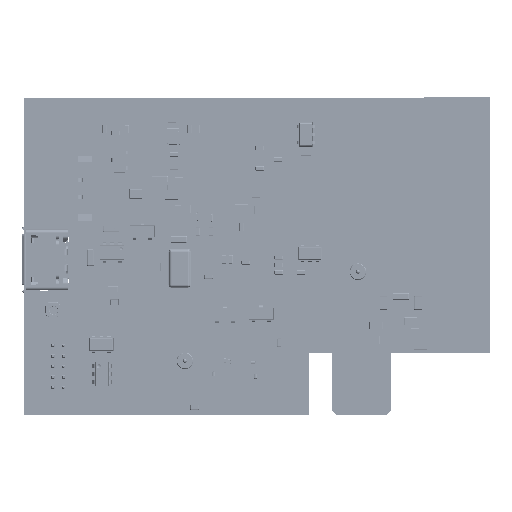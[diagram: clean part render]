
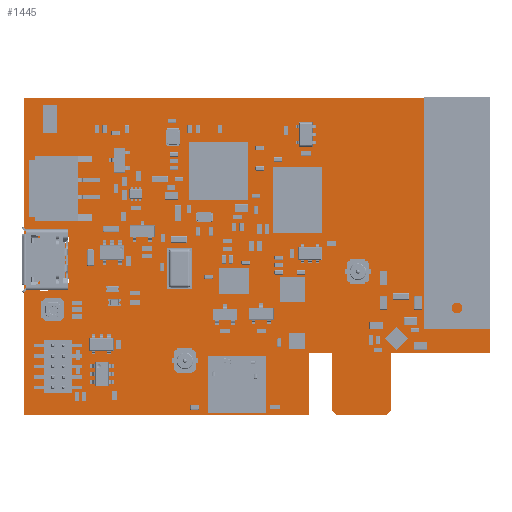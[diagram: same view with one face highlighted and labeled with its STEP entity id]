
A CAD part, top view. The second image highlights one B-rep face of the part: STEP entity #1445.
In plain terms, the highlighted planar face has unit normal (0, 0, 1).
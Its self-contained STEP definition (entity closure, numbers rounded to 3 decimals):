
#524 = VERTEX_POINT('',#525);
#525 = CARTESIAN_POINT('',(-1.5,0.,1.663));
#531 = EDGE_CURVE('',#524,#532,#534,.T.);
#532 = VERTEX_POINT('',#533);
#533 = CARTESIAN_POINT('',(-1.5,38.4,1.663));
#534 = LINE('',#535,#536);
#535 = CARTESIAN_POINT('',(-1.5,0.,1.663));
#536 = VECTOR('',#537,1.);
#537 = DIRECTION('',(0.,1.,0.));
#562 = EDGE_CURVE('',#532,#563,#565,.T.);
#563 = VERTEX_POINT('',#564);
#564 = CARTESIAN_POINT('',(55.,38.4,1.663));
#565 = LINE('',#566,#567);
#566 = CARTESIAN_POINT('',(-1.5,38.4,1.663));
#567 = VECTOR('',#568,1.);
#568 = DIRECTION('',(1.,0.,0.));
#593 = EDGE_CURVE('',#563,#594,#596,.T.);
#594 = VERTEX_POINT('',#595);
#595 = CARTESIAN_POINT('',(55.,7.4,1.663));
#596 = LINE('',#597,#598);
#597 = CARTESIAN_POINT('',(55.,38.4,1.663));
#598 = VECTOR('',#599,1.);
#599 = DIRECTION('',(0.,-1.,0.));
#624 = EDGE_CURVE('',#594,#625,#627,.T.);
#625 = VERTEX_POINT('',#626);
#626 = CARTESIAN_POINT('',(43.,7.4,1.663));
#627 = LINE('',#628,#629);
#628 = CARTESIAN_POINT('',(55.,7.4,1.663));
#629 = VECTOR('',#630,1.);
#630 = DIRECTION('',(-1.,0.,0.));
#655 = EDGE_CURVE('',#625,#656,#658,.T.);
#656 = VERTEX_POINT('',#657);
#657 = CARTESIAN_POINT('',(43.,0.5,1.663));
#658 = LINE('',#659,#660);
#659 = CARTESIAN_POINT('',(43.,7.4,1.663));
#660 = VECTOR('',#661,1.);
#661 = DIRECTION('',(0.,-1.,0.));
#686 = EDGE_CURVE('',#656,#687,#689,.T.);
#687 = VERTEX_POINT('',#688);
#688 = CARTESIAN_POINT('',(42.5,0.,1.663));
#689 = LINE('',#690,#691);
#690 = CARTESIAN_POINT('',(43.,0.5,1.663));
#691 = VECTOR('',#692,1.);
#692 = DIRECTION('',(-0.707,-0.707,0.));
#717 = EDGE_CURVE('',#687,#718,#720,.T.);
#718 = VERTEX_POINT('',#719);
#719 = CARTESIAN_POINT('',(36.4,0.,1.663));
#720 = LINE('',#721,#722);
#721 = CARTESIAN_POINT('',(42.5,0.,1.663));
#722 = VECTOR('',#723,1.);
#723 = DIRECTION('',(-1.,0.,0.));
#748 = EDGE_CURVE('',#718,#749,#751,.T.);
#749 = VERTEX_POINT('',#750);
#750 = CARTESIAN_POINT('',(35.9,0.5,1.663));
#751 = LINE('',#752,#753);
#752 = CARTESIAN_POINT('',(36.4,0.,1.663));
#753 = VECTOR('',#754,1.);
#754 = DIRECTION('',(-0.707,0.707,0.));
#779 = EDGE_CURVE('',#749,#780,#782,.T.);
#780 = VERTEX_POINT('',#781);
#781 = CARTESIAN_POINT('',(35.9,7.4,1.663));
#782 = LINE('',#783,#784);
#783 = CARTESIAN_POINT('',(35.9,0.5,1.663));
#784 = VECTOR('',#785,1.);
#785 = DIRECTION('',(0.,1.,0.));
#810 = EDGE_CURVE('',#780,#811,#813,.T.);
#811 = VERTEX_POINT('',#812);
#812 = CARTESIAN_POINT('',(33.1,7.4,1.663));
#813 = LINE('',#814,#815);
#814 = CARTESIAN_POINT('',(35.9,7.4,1.663));
#815 = VECTOR('',#816,1.);
#816 = DIRECTION('',(-1.,0.,0.));
#841 = EDGE_CURVE('',#811,#842,#844,.T.);
#842 = VERTEX_POINT('',#843);
#843 = CARTESIAN_POINT('',(33.1,0.,1.663));
#844 = LINE('',#845,#846);
#845 = CARTESIAN_POINT('',(33.1,7.4,1.663));
#846 = VECTOR('',#847,1.);
#847 = DIRECTION('',(0.,-1.,0.));
#872 = EDGE_CURVE('',#842,#524,#873,.T.);
#873 = LINE('',#874,#875);
#874 = CARTESIAN_POINT('',(33.1,0.,1.663));
#875 = VECTOR('',#876,1.);
#876 = DIRECTION('',(-1.,0.,0.));
#896 = VERTEX_POINT('',#897);
#897 = CARTESIAN_POINT('',(0.675,15.45,1.663));
#903 = EDGE_CURVE('',#896,#904,#906,.T.);
#904 = VERTEX_POINT('',#905);
#905 = CARTESIAN_POINT('',(0.675,14.95,1.663));
#906 = CIRCLE('',#907,0.25);
#907 = AXIS2_PLACEMENT_3D('',#908,#909,#910);
#908 = CARTESIAN_POINT('',(0.675,15.2,1.663));
#909 = DIRECTION('',(0.,0.,1.));
#910 = DIRECTION('',(0.,1.,0.));
#938 = VERTEX_POINT('',#939);
#939 = CARTESIAN_POINT('',(1.325,15.45,1.663));
#945 = EDGE_CURVE('',#938,#896,#946,.T.);
#946 = LINE('',#947,#948);
#947 = CARTESIAN_POINT('',(1.325,15.45,1.663));
#948 = VECTOR('',#949,1.);
#949 = DIRECTION('',(-1.,0.,0.));
#969 = VERTEX_POINT('',#970);
#970 = CARTESIAN_POINT('',(1.325,14.95,1.663));
#976 = EDGE_CURVE('',#969,#938,#977,.T.);
#977 = CIRCLE('',#978,0.25);
#978 = AXIS2_PLACEMENT_3D('',#979,#980,#981);
#979 = CARTESIAN_POINT('',(1.325,15.2,1.663));
#980 = DIRECTION('',(0.,0.,1.));
#981 = DIRECTION('',(0.,-1.,0.));
#1000 = EDGE_CURVE('',#904,#969,#1001,.T.);
#1001 = LINE('',#1002,#1003);
#1002 = CARTESIAN_POINT('',(0.675,14.95,1.663));
#1003 = VECTOR('',#1004,1.);
#1004 = DIRECTION('',(1.,0.,0.));
#1024 = VERTEX_POINT('',#1025);
#1025 = CARTESIAN_POINT('',(0.675,22.45,1.663));
#1031 = EDGE_CURVE('',#1024,#1032,#1034,.T.);
#1032 = VERTEX_POINT('',#1033);
#1033 = CARTESIAN_POINT('',(0.675,21.95,1.663));
#1034 = CIRCLE('',#1035,0.25);
#1035 = AXIS2_PLACEMENT_3D('',#1036,#1037,#1038);
#1036 = CARTESIAN_POINT('',(0.675,22.2,1.663));
#1037 = DIRECTION('',(0.,0.,1.));
#1038 = DIRECTION('',(0.,1.,0.));
#1066 = VERTEX_POINT('',#1067);
#1067 = CARTESIAN_POINT('',(1.325,22.45,1.663));
#1073 = EDGE_CURVE('',#1066,#1024,#1074,.T.);
#1074 = LINE('',#1075,#1076);
#1075 = CARTESIAN_POINT('',(1.325,22.45,1.663));
#1076 = VECTOR('',#1077,1.);
#1077 = DIRECTION('',(-1.,0.,0.));
#1097 = VERTEX_POINT('',#1098);
#1098 = CARTESIAN_POINT('',(1.325,21.95,1.663));
#1104 = EDGE_CURVE('',#1097,#1066,#1105,.T.);
#1105 = CIRCLE('',#1106,0.25);
#1106 = AXIS2_PLACEMENT_3D('',#1107,#1108,#1109);
#1107 = CARTESIAN_POINT('',(1.325,22.2,1.663));
#1108 = DIRECTION('',(0.,0.,1.));
#1109 = DIRECTION('',(0.,-1.,0.));
#1128 = EDGE_CURVE('',#1032,#1097,#1129,.T.);
#1129 = LINE('',#1130,#1131);
#1130 = CARTESIAN_POINT('',(0.675,21.95,1.663));
#1131 = VECTOR('',#1132,1.);
#1132 = DIRECTION('',(1.,0.,0.));
#1152 = VERTEX_POINT('',#1153);
#1153 = CARTESIAN_POINT('',(3.425,16.05,1.663));
#1159 = EDGE_CURVE('',#1152,#1160,#1162,.T.);
#1160 = VERTEX_POINT('',#1161);
#1161 = CARTESIAN_POINT('',(3.975,16.05,1.663));
#1162 = CIRCLE('',#1163,0.275);
#1163 = AXIS2_PLACEMENT_3D('',#1164,#1165,#1166);
#1164 = CARTESIAN_POINT('',(3.7,16.05,1.663));
#1165 = DIRECTION('',(0.,0.,1.));
#1166 = DIRECTION('',(-1.,0.,0.));
#1194 = VERTEX_POINT('',#1195);
#1195 = CARTESIAN_POINT('',(3.425,16.35,1.663));
#1201 = EDGE_CURVE('',#1194,#1152,#1202,.T.);
#1202 = LINE('',#1203,#1204);
#1203 = CARTESIAN_POINT('',(3.425,16.35,1.663));
#1204 = VECTOR('',#1205,1.);
#1205 = DIRECTION('',(0.,-1.,0.));
#1225 = VERTEX_POINT('',#1226);
#1226 = CARTESIAN_POINT('',(3.975,16.35,1.663));
#1232 = EDGE_CURVE('',#1225,#1194,#1233,.T.);
#1233 = CIRCLE('',#1234,0.275);
#1234 = AXIS2_PLACEMENT_3D('',#1235,#1236,#1237);
#1235 = CARTESIAN_POINT('',(3.7,16.35,1.663));
#1236 = DIRECTION('',(0.,0.,1.));
#1237 = DIRECTION('',(1.,0.,0.));
#1256 = EDGE_CURVE('',#1160,#1225,#1257,.T.);
#1257 = LINE('',#1258,#1259);
#1258 = CARTESIAN_POINT('',(3.975,16.05,1.663));
#1259 = VECTOR('',#1260,1.);
#1260 = DIRECTION('',(0.,1.,0.));
#1280 = VERTEX_POINT('',#1281);
#1281 = CARTESIAN_POINT('',(3.425,21.05,1.663));
#1287 = EDGE_CURVE('',#1280,#1288,#1290,.T.);
#1288 = VERTEX_POINT('',#1289);
#1289 = CARTESIAN_POINT('',(3.975,21.05,1.663));
#1290 = CIRCLE('',#1291,0.275);
#1291 = AXIS2_PLACEMENT_3D('',#1292,#1293,#1294);
#1292 = CARTESIAN_POINT('',(3.7,21.05,1.663));
#1293 = DIRECTION('',(0.,0.,1.));
#1294 = DIRECTION('',(-1.,0.,0.));
#1322 = VERTEX_POINT('',#1323);
#1323 = CARTESIAN_POINT('',(3.425,21.35,1.663));
#1329 = EDGE_CURVE('',#1322,#1280,#1330,.T.);
#1330 = LINE('',#1331,#1332);
#1331 = CARTESIAN_POINT('',(3.425,21.35,1.663));
#1332 = VECTOR('',#1333,1.);
#1333 = DIRECTION('',(0.,-1.,0.));
#1353 = VERTEX_POINT('',#1354);
#1354 = CARTESIAN_POINT('',(3.975,21.35,1.663));
#1360 = EDGE_CURVE('',#1353,#1322,#1361,.T.);
#1361 = CIRCLE('',#1362,0.275);
#1362 = AXIS2_PLACEMENT_3D('',#1363,#1364,#1365);
#1363 = CARTESIAN_POINT('',(3.7,21.35,1.663));
#1364 = DIRECTION('',(0.,0.,1.));
#1365 = DIRECTION('',(1.,0.,0.));
#1384 = EDGE_CURVE('',#1288,#1353,#1385,.T.);
#1385 = LINE('',#1386,#1387);
#1386 = CARTESIAN_POINT('',(3.975,21.05,1.663));
#1387 = VECTOR('',#1388,1.);
#1388 = DIRECTION('',(0.,1.,0.));
#1445 = ADVANCED_FACE('',(#1446,#1460,#1466,#1472,#1478),#1484,.T.);
#1446 = FACE_BOUND('',#1447,.F.);
#1447 = EDGE_LOOP('',(#1448,#1449,#1450,#1451,#1452,#1453,#1454,#1455,
    #1456,#1457,#1458,#1459));
#1448 = ORIENTED_EDGE('',*,*,#531,.T.);
#1449 = ORIENTED_EDGE('',*,*,#562,.T.);
#1450 = ORIENTED_EDGE('',*,*,#593,.T.);
#1451 = ORIENTED_EDGE('',*,*,#624,.T.);
#1452 = ORIENTED_EDGE('',*,*,#655,.T.);
#1453 = ORIENTED_EDGE('',*,*,#686,.T.);
#1454 = ORIENTED_EDGE('',*,*,#717,.T.);
#1455 = ORIENTED_EDGE('',*,*,#748,.T.);
#1456 = ORIENTED_EDGE('',*,*,#779,.T.);
#1457 = ORIENTED_EDGE('',*,*,#810,.T.);
#1458 = ORIENTED_EDGE('',*,*,#841,.T.);
#1459 = ORIENTED_EDGE('',*,*,#872,.T.);
#1460 = FACE_BOUND('',#1461,.T.);
#1461 = EDGE_LOOP('',(#1462,#1463,#1464,#1465));
#1462 = ORIENTED_EDGE('',*,*,#903,.F.);
#1463 = ORIENTED_EDGE('',*,*,#945,.F.);
#1464 = ORIENTED_EDGE('',*,*,#976,.F.);
#1465 = ORIENTED_EDGE('',*,*,#1000,.F.);
#1466 = FACE_BOUND('',#1467,.T.);
#1467 = EDGE_LOOP('',(#1468,#1469,#1470,#1471));
#1468 = ORIENTED_EDGE('',*,*,#1031,.F.);
#1469 = ORIENTED_EDGE('',*,*,#1073,.F.);
#1470 = ORIENTED_EDGE('',*,*,#1104,.F.);
#1471 = ORIENTED_EDGE('',*,*,#1128,.F.);
#1472 = FACE_BOUND('',#1473,.T.);
#1473 = EDGE_LOOP('',(#1474,#1475,#1476,#1477));
#1474 = ORIENTED_EDGE('',*,*,#1159,.F.);
#1475 = ORIENTED_EDGE('',*,*,#1201,.F.);
#1476 = ORIENTED_EDGE('',*,*,#1232,.F.);
#1477 = ORIENTED_EDGE('',*,*,#1256,.F.);
#1478 = FACE_BOUND('',#1479,.T.);
#1479 = EDGE_LOOP('',(#1480,#1481,#1482,#1483));
#1480 = ORIENTED_EDGE('',*,*,#1287,.F.);
#1481 = ORIENTED_EDGE('',*,*,#1329,.F.);
#1482 = ORIENTED_EDGE('',*,*,#1360,.F.);
#1483 = ORIENTED_EDGE('',*,*,#1384,.F.);
#1484 = PLANE('',#1485);
#1485 = AXIS2_PLACEMENT_3D('',#1486,#1487,#1488);
#1486 = CARTESIAN_POINT('',(-1.5,0.,1.663));
#1487 = DIRECTION('',(0.,0.,1.));
#1488 = DIRECTION('',(1.,0.,0.));
